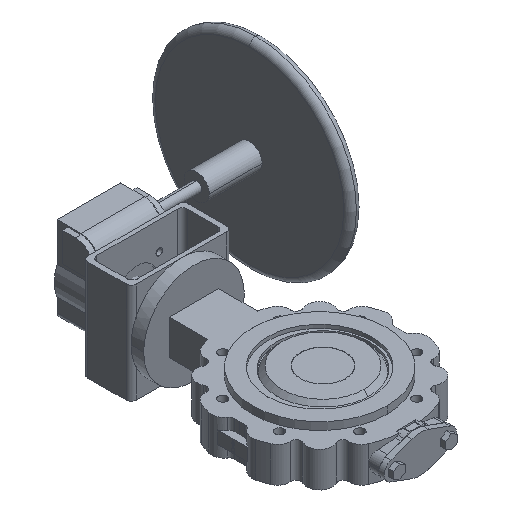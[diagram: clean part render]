
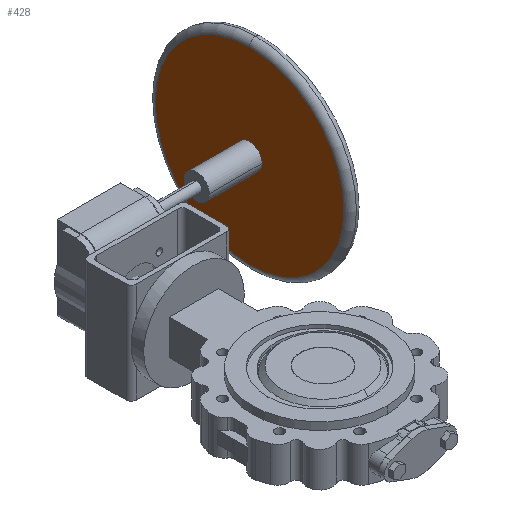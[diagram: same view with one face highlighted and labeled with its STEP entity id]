
A CAD part, isometric view. The second image highlights one B-rep face of the part: STEP entity #428.
In plain terms, the highlighted planar face has unit normal (-1, 0, 0).
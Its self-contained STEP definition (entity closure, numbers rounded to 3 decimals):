
#428 = ADVANCED_FACE( '', ( #1111, #1112 ), #1113, .T. );
#1111 = FACE_OUTER_BOUND( '', #1815, .T. );
#1112 = FACE_BOUND( '', #1816, .T. );
#1113 = PLANE( '', #1817 );
#1815 = EDGE_LOOP( '', ( #4412, #4413, #4414 ) );
#1816 = EDGE_LOOP( '', ( #4415, #4416 ) );
#1817 = AXIS2_PLACEMENT_3D( '', #4417, #4418, #4419 );
#4412 = ORIENTED_EDGE( '', *, *, #5318, .F. );
#4413 = ORIENTED_EDGE( '', *, *, #5317, .F. );
#4414 = ORIENTED_EDGE( '', *, *, #5314, .F. );
#4415 = ORIENTED_EDGE( '', *, *, #5330, .T. );
#4416 = ORIENTED_EDGE( '', *, *, #5417, .T. );
#4417 = CARTESIAN_POINT( '', ( 272., 517.75, 71. ) );
#4418 = DIRECTION( '', ( -1., 0., 0. ) );
#4419 = DIRECTION( '', ( 0., -1., 0. ) );
#5314 = EDGE_CURVE( '', #6679, #6681, #6682, .T. );
#5317 = EDGE_CURVE( '', #6681, #6685, #6686, .T. );
#5318 = EDGE_CURVE( '', #6685, #6679, #6687, .T. );
#5330 = EDGE_CURVE( '', #6704, #6708, #6710, .T. );
#5417 = EDGE_CURVE( '', #6708, #6704, #6854, .T. );
#6679 = VERTEX_POINT( '', #9286 );
#6681 = VERTEX_POINT( '', #9288 );
#6682 = CIRCLE( '', #9289, 187.5 );
#6685 = VERTEX_POINT( '', #9292 );
#6686 = CIRCLE( '', #9293, 187.5 );
#6687 = CIRCLE( '', #9294, 187.5 );
#6704 = VERTEX_POINT( '', #9313 );
#6708 = VERTEX_POINT( '', #9318 );
#6710 = CIRCLE( '', #9321, 25. );
#6854 = CIRCLE( '', #9537, 25. );
#9286 = CARTESIAN_POINT( '', ( 272., 411.5, 258.5 ) );
#9288 = CARTESIAN_POINT( '', ( 272., 411.5, -116.5 ) );
#9289 = AXIS2_PLACEMENT_3D( '', #11033, #11034, #11035 );
#9292 = CARTESIAN_POINT( '', ( 272., 599., 71. ) );
#9293 = AXIS2_PLACEMENT_3D( '', #11042, #11043, #11044 );
#9294 = AXIS2_PLACEMENT_3D( '', #11045, #11046, #11047 );
#9313 = CARTESIAN_POINT( '', ( 272., 436.5, 71. ) );
#9318 = CARTESIAN_POINT( '', ( 272., 386.5, 71. ) );
#9321 = AXIS2_PLACEMENT_3D( '', #11073, #11074, #11075 );
#9537 = AXIS2_PLACEMENT_3D( '', #11190, #11191, #11192 );
#11033 = CARTESIAN_POINT( '', ( 272., 411.5, 71. ) );
#11034 = DIRECTION( '', ( 1., 0., 0. ) );
#11035 = DIRECTION( '', ( 0., 1., 0. ) );
#11042 = CARTESIAN_POINT( '', ( 272., 411.5, 71. ) );
#11043 = DIRECTION( '', ( 1., 0., 0. ) );
#11044 = DIRECTION( '', ( 0., 1., 0. ) );
#11045 = CARTESIAN_POINT( '', ( 272., 411.5, 71. ) );
#11046 = DIRECTION( '', ( 1., 0., 0. ) );
#11047 = DIRECTION( '', ( 0., 1., 0. ) );
#11073 = CARTESIAN_POINT( '', ( 272., 411.5, 71. ) );
#11074 = DIRECTION( '', ( 1., 0., 0. ) );
#11075 = DIRECTION( '', ( 0., 1., 0. ) );
#11190 = CARTESIAN_POINT( '', ( 272., 411.5, 71. ) );
#11191 = DIRECTION( '', ( 1., 0., 0. ) );
#11192 = DIRECTION( '', ( 0., 1., 0. ) );
